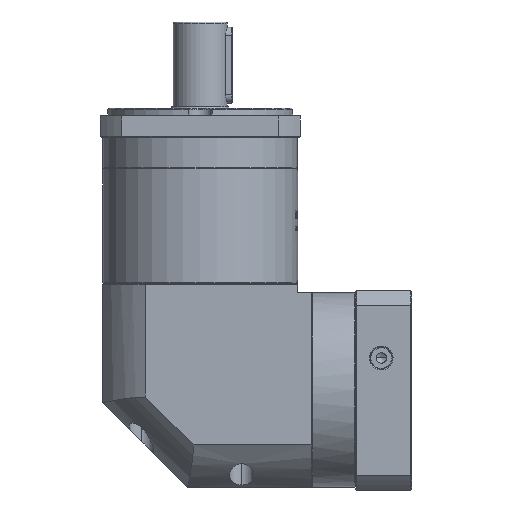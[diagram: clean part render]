
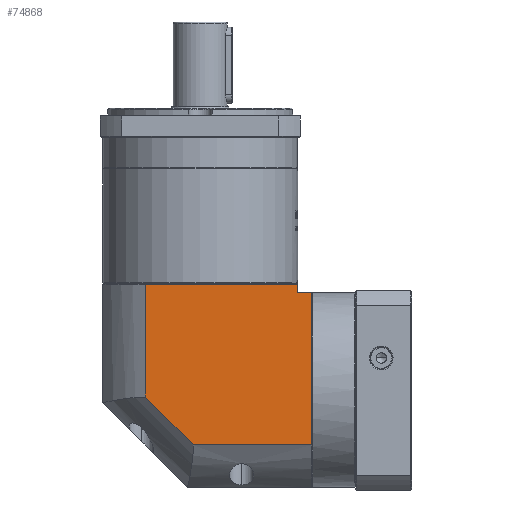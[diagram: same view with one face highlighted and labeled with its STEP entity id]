
A CAD part, left-side view. The second image highlights one B-rep face of the part: STEP entity #74868.
In plain terms, the highlighted planar face has unit normal (-1, 0, 0).
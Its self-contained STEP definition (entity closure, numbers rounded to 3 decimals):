
#2542 = VECTOR ( 'NONE', #157559, 1000. ) ;
#3702 = DIRECTION ( 'NONE',  ( 0., 0., -1. ) ) ;
#4510 = LINE ( 'NONE', #117823, #2542 ) ;
#6254 = CARTESIAN_POINT ( 'NONE',  ( 117.82, 118.089, 151.751 ) ) ;
#10276 = FACE_OUTER_BOUND ( 'NONE', #110271, .T. ) ;
#10455 = VECTOR ( 'NONE', #25442, 1000. ) ;
#14482 = EDGE_CURVE ( 'NONE', #121421, #123146, #47155, .T. ) ;
#17323 = ORIENTED_EDGE ( 'NONE', *, *, #106561, .F. ) ;
#17607 = AXIS2_PLACEMENT_3D ( 'NONE', #76067, #117496, #51980 ) ;
#18073 = VECTOR ( 'NONE', #37311, 1000. ) ;
#22695 = CARTESIAN_POINT ( 'NONE',  ( 117.82, 118.089, 145.251 ) ) ;
#25442 = DIRECTION ( 'NONE',  ( 0., -1., 0. ) ) ;
#29413 = DIRECTION ( 'NONE',  ( 0., 0.707, 0.707 ) ) ;
#34661 = ORIENTED_EDGE ( 'NONE', *, *, #79697, .F. ) ;
#37311 = DIRECTION ( 'NONE',  ( 0., 0., 1. ) ) ;
#45293 = LINE ( 'NONE', #126497, #10455 ) ;
#45638 = LINE ( 'NONE', #80493, #123716 ) ;
#47155 = LINE ( 'NONE', #6254, #129390 ) ;
#51980 = DIRECTION ( 'NONE',  ( 0., 1., 0. ) ) ;
#55798 = CARTESIAN_POINT ( 'NONE',  ( 117.82, 89.751, 50.351 ) ) ;
#64135 = CARTESIAN_POINT ( 'NONE',  ( 117.82, 28.19, 145.251 ) ) ;
#73034 = LINE ( 'NONE', #55798, #108053 ) ;
#73038 = VERTEX_POINT ( 'NONE', #127171 ) ;
#74868 = ADVANCED_FACE ( 'NONE', ( #10276 ), #104317, .F. ) ;
#75311 = CARTESIAN_POINT ( 'NONE',  ( 117.82, 143.19, 50.351 ) ) ;
#76067 = CARTESIAN_POINT ( 'NONE',  ( 117.82, 143.19, 151.751 ) ) ;
#78684 = CARTESIAN_POINT ( 'NONE',  ( 117.82, 19.79, 50.351 ) ) ;
#79697 = EDGE_CURVE ( 'NONE', #73038, #121421, #73034, .T. ) ;
#80493 = CARTESIAN_POINT ( 'NONE',  ( 117.82, 19.79, 151.751 ) ) ;
#83730 = VERTEX_POINT ( 'NONE', #64135 ) ;
#87709 = ORIENTED_EDGE ( 'NONE', *, *, #14482, .F. ) ;
#87839 = LINE ( 'NONE', #170583, #18073 ) ;
#90805 = VERTEX_POINT ( 'NONE', #78684 ) ;
#96595 = ORIENTED_EDGE ( 'NONE', *, *, #106706, .T. ) ;
#96737 = ORIENTED_EDGE ( 'NONE', *, *, #99264, .F. ) ;
#98059 = DIRECTION ( 'NONE',  ( 0., 0., 1. ) ) ;
#98415 = CARTESIAN_POINT ( 'NONE',  ( 117.82, 118.089, 78.689 ) ) ;
#99264 = EDGE_CURVE ( 'NONE', #90805, #73038, #108486, .T. ) ;
#101217 = DIRECTION ( 'NONE',  ( 0., 1., 0. ) ) ;
#104317 = PLANE ( 'NONE',  #17607 ) ;
#106561 = EDGE_CURVE ( 'NONE', #150924, #90805, #45638, .T. ) ;
#106706 = EDGE_CURVE ( 'NONE', #150924, #137253, #4510, .T. ) ;
#108053 = VECTOR ( 'NONE', #29413, 1000. ) ;
#108486 = LINE ( 'NONE', #75311, #166139 ) ;
#108611 = ORIENTED_EDGE ( 'NONE', *, *, #149500, .T. ) ;
#110271 = EDGE_LOOP ( 'NONE', ( #87709, #34661, #96737, #17323, #96595, #108611, #141604 ) ) ;
#117496 = DIRECTION ( 'NONE',  ( 1., 0., 0. ) ) ;
#117823 = CARTESIAN_POINT ( 'NONE',  ( 117.82, 28.19, 140.251 ) ) ;
#121421 = VERTEX_POINT ( 'NONE', #98415 ) ;
#123146 = VERTEX_POINT ( 'NONE', #22695 ) ;
#123716 = VECTOR ( 'NONE', #3702, 1000. ) ;
#126497 = CARTESIAN_POINT ( 'NONE',  ( 117.82, 143.19, 145.251 ) ) ;
#127171 = CARTESIAN_POINT ( 'NONE',  ( 117.82, 89.751, 50.351 ) ) ;
#127720 = EDGE_CURVE ( 'NONE', #123146, #83730, #45293, .T. ) ;
#129390 = VECTOR ( 'NONE', #98059, 1000. ) ;
#137253 = VERTEX_POINT ( 'NONE', #162409 ) ;
#141604 = ORIENTED_EDGE ( 'NONE', *, *, #127720, .F. ) ;
#149500 = EDGE_CURVE ( 'NONE', #137253, #83730, #87839, .T. ) ;
#150924 = VERTEX_POINT ( 'NONE', #156077 ) ;
#156077 = CARTESIAN_POINT ( 'NONE',  ( 117.82, 19.79, 140.251 ) ) ;
#157559 = DIRECTION ( 'NONE',  ( 0., 1., 0. ) ) ;
#162409 = CARTESIAN_POINT ( 'NONE',  ( 117.82, 28.19, 140.251 ) ) ;
#166139 = VECTOR ( 'NONE', #101217, 1000. ) ;
#170583 = CARTESIAN_POINT ( 'NONE',  ( 117.82, 28.19, 25.251 ) ) ;
